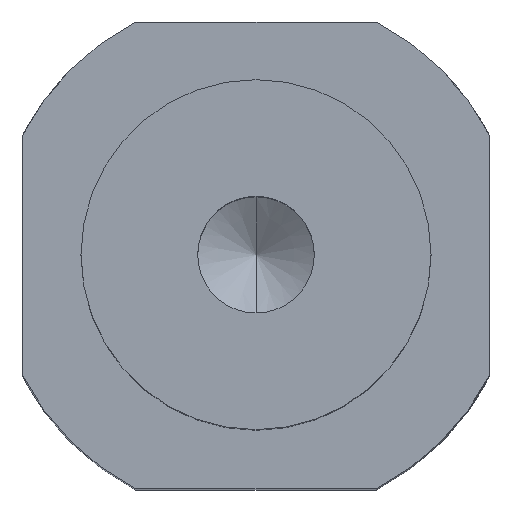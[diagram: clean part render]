
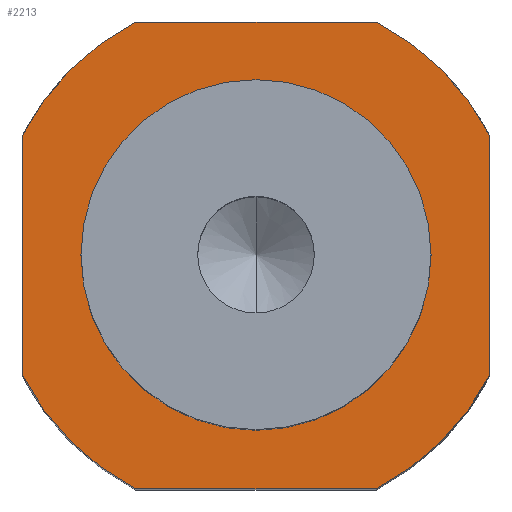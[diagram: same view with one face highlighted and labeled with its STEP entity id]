
A CAD part, top view. The second image highlights one B-rep face of the part: STEP entity #2213.
In plain terms, the highlighted planar face has unit normal (0, 0, 1).
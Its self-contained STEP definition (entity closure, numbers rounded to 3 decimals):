
#204 = AXIS2_PLACEMENT_3D ( 'NONE', #9022, #1502, #10779 ) ;
#487 = ORIENTED_EDGE ( 'NONE', *, *, #8561, .T. ) ;
#662 = ORIENTED_EDGE ( 'NONE', *, *, #3364, .T. ) ;
#748 = DIRECTION ( 'NONE',  ( 0., 1., 0. ) ) ;
#802 = DIRECTION ( 'NONE',  ( 0., -1., 0. ) ) ;
#1082 = LINE ( 'NONE', #9664, #2537 ) ;
#1144 = DIRECTION ( 'NONE',  ( 0., 1., 0. ) ) ;
#1502 = DIRECTION ( 'NONE',  ( 0., 0., 1. ) ) ;
#1608 = ORIENTED_EDGE ( 'NONE', *, *, #6417, .T. ) ;
#1629 = CARTESIAN_POINT ( 'NONE',  ( -8.089, 33.214, 0.701 ) ) ;
#1855 = VERTEX_POINT ( 'NONE', #7535 ) ;
#2071 = FACE_OUTER_BOUND ( 'NONE', #9368, .T. ) ;
#2074 = DIRECTION ( 'NONE',  ( 0., 0., 1. ) ) ;
#2213 = ADVANCED_FACE ( 'NONE', ( #11214, #2071 ), #7922, .T. ) ;
#2231 = EDGE_CURVE ( 'NONE', #10656, #11715, #2785, .T. ) ;
#2444 = LINE ( 'NONE', #9389, #11461 ) ;
#2505 = CARTESIAN_POINT ( 'NONE',  ( -18.213, 41.214, 0.701 ) ) ;
#2527 = DIRECTION ( 'NONE',  ( -1., 0., 0. ) ) ;
#2537 = VECTOR ( 'NONE', #6741, 1000. ) ;
#2705 = AXIS2_PLACEMENT_3D ( 'NONE', #5537, #2074, #5149 ) ;
#2785 = CIRCLE ( 'NONE', #2705, 9. ) ;
#2839 = ORIENTED_EDGE ( 'NONE', *, *, #5349, .T. ) ;
#3220 = CIRCLE ( 'NONE', #4117, 6. ) ;
#3274 = CARTESIAN_POINT ( 'NONE',  ( -22.089, 37.337, 0.701 ) ) ;
#3364 = EDGE_CURVE ( 'NONE', #10071, #10656, #2444, .T. ) ;
#3544 = VERTEX_POINT ( 'NONE', #8002 ) ;
#3563 = EDGE_CURVE ( 'NONE', #1855, #10071, #11291, .T. ) ;
#3707 = LINE ( 'NONE', #11239, #11290 ) ;
#4016 = CIRCLE ( 'NONE', #5688, 9. ) ;
#4117 = AXIS2_PLACEMENT_3D ( 'NONE', #8967, #5263, #6181 ) ;
#4256 = ORIENTED_EDGE ( 'NONE', *, *, #2231, .T. ) ;
#4453 = CARTESIAN_POINT ( 'NONE',  ( -22.089, 29.091, 0.701 ) ) ;
#4503 = CARTESIAN_POINT ( 'NONE',  ( -22.089, 33.214, 0.701 ) ) ;
#4654 = CARTESIAN_POINT ( 'NONE',  ( -20.089, 33.214, 0.701 ) ) ;
#4694 = DIRECTION ( 'NONE',  ( 1., 0., 0. ) ) ;
#5149 = DIRECTION ( 'NONE',  ( 0., 1., 0. ) ) ;
#5263 = DIRECTION ( 'NONE',  ( 0., 0., -1. ) ) ;
#5337 = DIRECTION ( 'NONE',  ( 0., 0., 1. ) ) ;
#5349 = EDGE_CURVE ( 'NONE', #11715, #7453, #9204, .T. ) ;
#5494 = AXIS2_PLACEMENT_3D ( 'NONE', #10706, #8065, #2527 ) ;
#5537 = CARTESIAN_POINT ( 'NONE',  ( -14.089, 33.214, 0.701 ) ) ;
#5688 = AXIS2_PLACEMENT_3D ( 'NONE', #11279, #8448, #6448 ) ;
#5825 = DIRECTION ( 'NONE',  ( 0., 0., 1. ) ) ;
#5896 = VERTEX_POINT ( 'NONE', #6323 ) ;
#6181 = DIRECTION ( 'NONE',  ( -1., 0., 0. ) ) ;
#6323 = CARTESIAN_POINT ( 'NONE',  ( -9.966, 25.214, 0.701 ) ) ;
#6373 = CIRCLE ( 'NONE', #11213, 9. ) ;
#6417 = EDGE_CURVE ( 'NONE', #9180, #7604, #3220, .T. ) ;
#6448 = DIRECTION ( 'NONE',  ( 0., 1., 0. ) ) ;
#6740 = VECTOR ( 'NONE', #802, 1000. ) ;
#6741 = DIRECTION ( 'NONE',  ( 0., 1., 0. ) ) ;
#7453 = VERTEX_POINT ( 'NONE', #4453 ) ;
#7535 = CARTESIAN_POINT ( 'NONE',  ( -6.089, 37.337, 0.701 ) ) ;
#7577 = EDGE_CURVE ( 'NONE', #5896, #3544, #4016, .T. ) ;
#7604 = VERTEX_POINT ( 'NONE', #4654 ) ;
#7654 = EDGE_CURVE ( 'NONE', #10084, #5896, #3707, .T. ) ;
#7660 = CARTESIAN_POINT ( 'NONE',  ( -18.213, 25.214, 0.701 ) ) ;
#7871 = EDGE_CURVE ( 'NONE', #3544, #1855, #1082, .T. ) ;
#7922 = PLANE ( 'NONE',  #204 ) ;
#8002 = CARTESIAN_POINT ( 'NONE',  ( -6.089, 29.091, 0.701 ) ) ;
#8065 = DIRECTION ( 'NONE',  ( 0., 0., -1. ) ) ;
#8136 = CIRCLE ( 'NONE', #5494, 6. ) ;
#8344 = ORIENTED_EDGE ( 'NONE', *, *, #7871, .T. ) ;
#8402 = EDGE_LOOP ( 'NONE', ( #487, #1608 ) ) ;
#8448 = DIRECTION ( 'NONE',  ( 0., 0., 1. ) ) ;
#8561 = EDGE_CURVE ( 'NONE', #7604, #9180, #8136, .T. ) ;
#8967 = CARTESIAN_POINT ( 'NONE',  ( -14.089, 33.214, 0.701 ) ) ;
#8992 = ORIENTED_EDGE ( 'NONE', *, *, #7577, .T. ) ;
#9022 = CARTESIAN_POINT ( 'NONE',  ( -22.089, 25.214, 0.701 ) ) ;
#9028 = EDGE_CURVE ( 'NONE', #7453, #10084, #6373, .T. ) ;
#9180 = VERTEX_POINT ( 'NONE', #1629 ) ;
#9204 = LINE ( 'NONE', #4503, #6740 ) ;
#9348 = ORIENTED_EDGE ( 'NONE', *, *, #7654, .T. ) ;
#9368 = EDGE_LOOP ( 'NONE', ( #11204, #662, #4256, #2839, #10584, #9348, #8992, #8344 ) ) ;
#9389 = CARTESIAN_POINT ( 'NONE',  ( -14.089, 41.214, 0.701 ) ) ;
#9574 = CARTESIAN_POINT ( 'NONE',  ( -9.966, 41.214, 0.701 ) ) ;
#9664 = CARTESIAN_POINT ( 'NONE',  ( -6.089, 33.214, 0.701 ) ) ;
#9993 = CARTESIAN_POINT ( 'NONE',  ( -14.089, 33.214, 0.701 ) ) ;
#10071 = VERTEX_POINT ( 'NONE', #9574 ) ;
#10084 = VERTEX_POINT ( 'NONE', #7660 ) ;
#10568 = AXIS2_PLACEMENT_3D ( 'NONE', #9993, #5337, #748 ) ;
#10584 = ORIENTED_EDGE ( 'NONE', *, *, #9028, .T. ) ;
#10639 = DIRECTION ( 'NONE',  ( -1., 0., 0. ) ) ;
#10656 = VERTEX_POINT ( 'NONE', #2505 ) ;
#10706 = CARTESIAN_POINT ( 'NONE',  ( -14.089, 33.214, 0.701 ) ) ;
#10779 = DIRECTION ( 'NONE',  ( 1., 0., 0. ) ) ;
#11204 = ORIENTED_EDGE ( 'NONE', *, *, #3563, .T. ) ;
#11213 = AXIS2_PLACEMENT_3D ( 'NONE', #11341, #5825, #1144 ) ;
#11214 = FACE_BOUND ( 'NONE', #8402, .T. ) ;
#11239 = CARTESIAN_POINT ( 'NONE',  ( -14.089, 25.214, 0.701 ) ) ;
#11279 = CARTESIAN_POINT ( 'NONE',  ( -14.089, 33.214, 0.701 ) ) ;
#11290 = VECTOR ( 'NONE', #4694, 1000. ) ;
#11291 = CIRCLE ( 'NONE', #10568, 9. ) ;
#11341 = CARTESIAN_POINT ( 'NONE',  ( -14.089, 33.214, 0.701 ) ) ;
#11461 = VECTOR ( 'NONE', #10639, 1000. ) ;
#11715 = VERTEX_POINT ( 'NONE', #3274 ) ;
